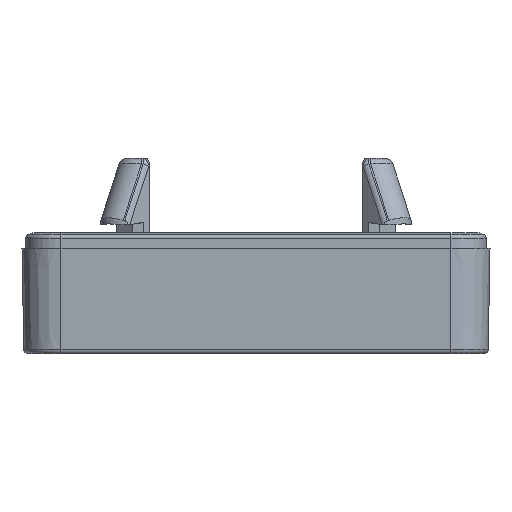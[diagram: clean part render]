
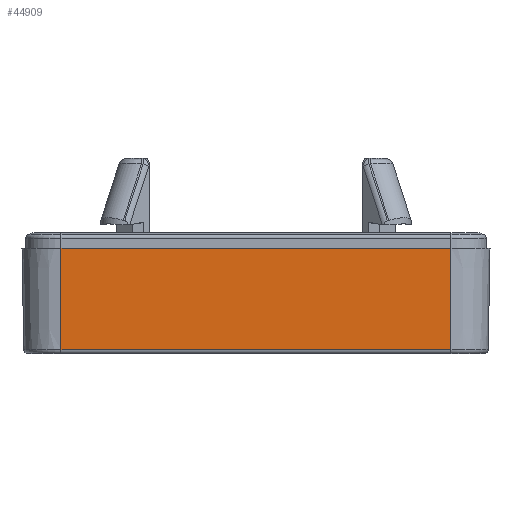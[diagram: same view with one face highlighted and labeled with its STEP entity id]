
A CAD part, left-side view. The second image highlights one B-rep face of the part: STEP entity #44909.
In plain terms, the highlighted planar face has unit normal (-1, 0, -0.018).
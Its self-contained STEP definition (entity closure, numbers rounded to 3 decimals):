
#1463=PLANE('',#48427);
#3058=LINE('',#73285,#6967);
#3059=LINE('',#73287,#6968);
#3060=LINE('',#73289,#6969);
#3061=LINE('',#73290,#6970);
#6967=VECTOR('',#54473,10.);
#6968=VECTOR('',#54474,10.);
#6969=VECTOR('',#54475,10.);
#6970=VECTOR('',#54476,10.);
#11379=FACE_OUTER_BOUND('',#14226,.T.);
#14226=EDGE_LOOP('',(#32516,#32517,#32518,#32519));
#20238=VERTEX_POINT('',#73283);
#20239=VERTEX_POINT('',#73284);
#20240=VERTEX_POINT('',#73286);
#20241=VERTEX_POINT('',#73288);
#24938=EDGE_CURVE('',#20238,#20239,#3058,.T.);
#24939=EDGE_CURVE('',#20240,#20238,#3059,.T.);
#24940=EDGE_CURVE('',#20241,#20240,#3060,.T.);
#24941=EDGE_CURVE('',#20241,#20239,#3061,.T.);
#32516=ORIENTED_EDGE('',*,*,#24938,.F.);
#32517=ORIENTED_EDGE('',*,*,#24939,.F.);
#32518=ORIENTED_EDGE('',*,*,#24940,.F.);
#32519=ORIENTED_EDGE('',*,*,#24941,.T.);
#44909=ADVANCED_FACE('',(#11379),#1463,.F.);
#48427=AXIS2_PLACEMENT_3D('',#73282,#54471,#54472);
#54471=DIRECTION('center_axis',(1.,0.,
0.017));
#54472=DIRECTION('ref_axis',(0.017,0.,-1.));
#54473=DIRECTION('',(0.,1.,0.));
#54474=DIRECTION('',(0.017,0.,-1.));
#54475=DIRECTION('',(0.,-1.,0.));
#54476=DIRECTION('',(0.017,0.,-1.));
#73282=CARTESIAN_POINT('Origin',(-74.,25.,0.));
#73283=CARTESIAN_POINT('',(-73.773,-25.,-13.009));
#73284=CARTESIAN_POINT('',(-73.773,25.,-13.009));
#73285=CARTESIAN_POINT('',(-73.773,19.916,-13.009));
#73286=CARTESIAN_POINT('',(-74.,-25.,0.));
#73287=CARTESIAN_POINT('',(-73.764,-25.,-13.5));
#73288=CARTESIAN_POINT('',(-74.,25.,0.));
#73289=CARTESIAN_POINT('',(-74.,0.,0.));
#73290=CARTESIAN_POINT('',(-73.764,25.,-13.5));
